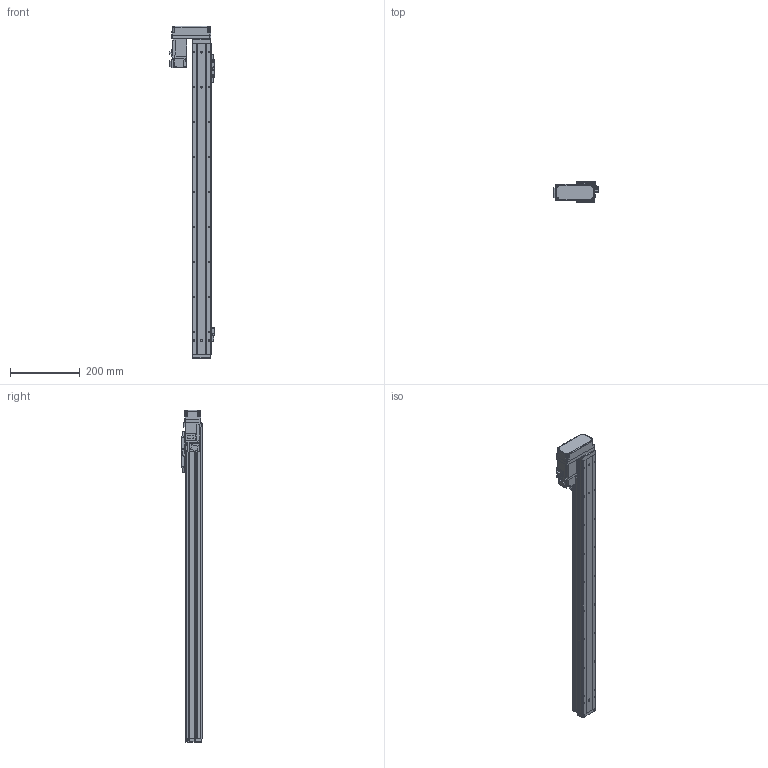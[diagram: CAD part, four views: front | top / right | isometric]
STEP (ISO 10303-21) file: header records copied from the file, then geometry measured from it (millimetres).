
FILE_DESCRIPTION (( 'STEP AP214' ), '1' );
FILE_NAME ('N_GRH5-750-BR-M10.step', '2025-03-14T10:58:26', ( '' ), ( '' ), 'SwSTEP 2.0', 'SolidWorks 2016', '' );
FILE_SCHEMA (( 'AUTOMOTIVE_DESIGN' ));
Length unit declared in the file: millimetre
Products named in the file (5): N_GRH5-BL-008^N_GRH5-750-BR-M10; N_GRH5-750-BR-M10; N_GRH5-GY-011^N_GRH5-750-BR-M10; HF-KP13_100W_Motor^N_GRH5-750-BR-M10; N_GRH5-GY-004^N_GRH5-750-BR-M10
Assembly tree (4 placements, depth 2):
  N_GRH5-750-BR-M10
    N_GRH5-GY-011^N_GRH5-750-BR-M10
    N_GRH5-GY-004^N_GRH5-750-BR-M10
    HF-KP13_100W_Motor^N_GRH5-750-BR-M10
    N_GRH5-BL-008^N_GRH5-750-BR-M10
Bounding box: 128.85 x 60 x 950 mm (x, y, z)
Volume: 1714586.7 mm3; surface area: 441498.8 mm2
Topology: 4 solids, 5 shells, 984 faces, 2504 edges, 1589 vertices
Faces by surface type: plane 557, cylinder 352, cone 50, bspline 15, sphere 10
Entity records: 37347 total; most frequent: CARTESIAN_POINT 5843, DIRECTION 5105, ORIENTED_EDGE 4944, EDGE_CURVE 2472, AXIS2_PLACEMENT_3D 1715, LINE 1675, VECTOR 1675, VERTEX_POINT 1587
